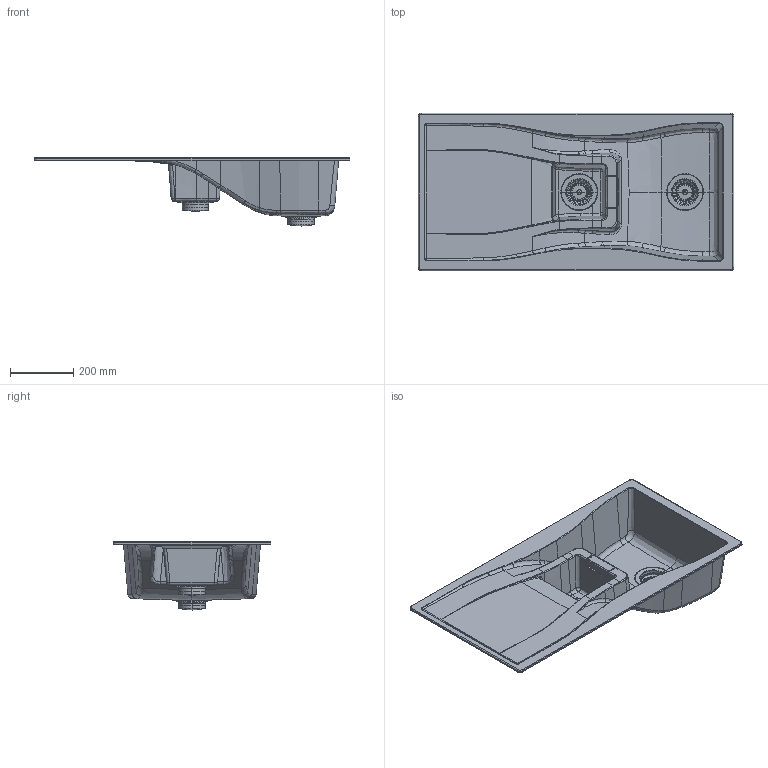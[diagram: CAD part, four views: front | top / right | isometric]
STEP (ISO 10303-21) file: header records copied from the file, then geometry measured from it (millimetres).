
FILE_DESCRIPTION(/* description */ (''),/* implementation_level */ '2;1');
FILE_NAME(/* name */ 'WATD150',/* time_stamp */ '2014-11-04T11:36:46+01:00',/* author */ (''),/* organization */ (''),/* preprocessor_version */ 'ST-DEVELOPER v15',/* originating_system */ '',/* authorisation */ '');
FILE_SCHEMA (('AUTOMOTIVE_DESIGN'));
Length unit declared in the file: millimetre
Products named in the file (1): Document
Bounding box: 1000 x 500 x 215.57 mm (x, y, z)
Volume: 62210.7 mm3; surface area: 925481.2 mm2
Topology: 6 solids, 38 shells, 773 faces, 2200 edges, 1359 vertices
Faces by surface type: bspline 713, plane 60
Entity records: 114721 total; most frequent: CARTESIAN_POINT 101997, ORIENTED_EDGE 4238, EDGE_CURVE 2183, B_SPLINE_CURVE_WITH_KNOTS 1646, VERTEX_POINT 1359, EDGE_LOOP 942, ADVANCED_FACE 773, FACE_OUTER_BOUND 773
